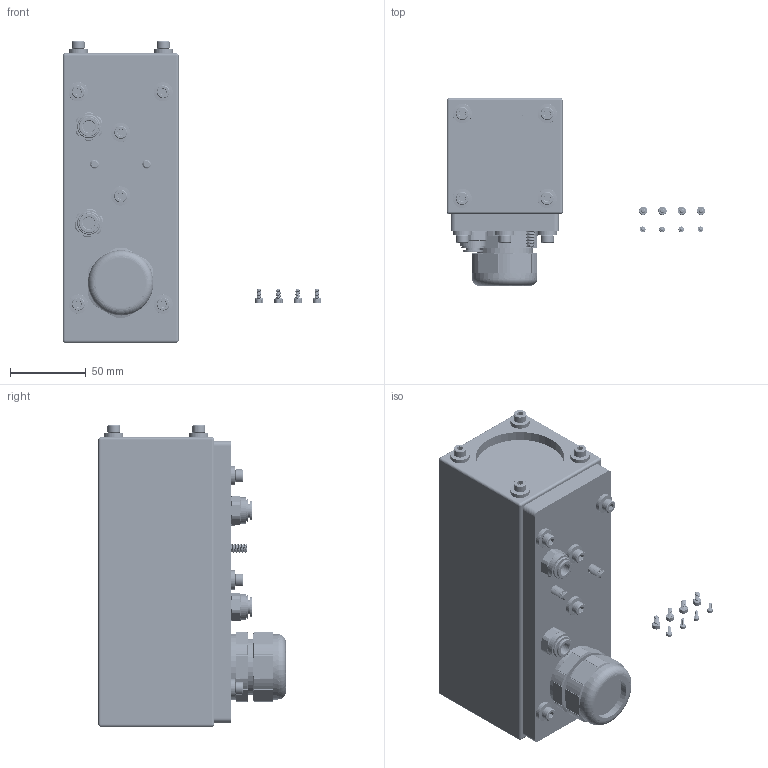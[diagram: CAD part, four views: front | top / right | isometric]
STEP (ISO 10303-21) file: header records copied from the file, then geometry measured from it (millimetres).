
FILE_DESCRIPTION (( 'STEP AP203' ), '1' );
FILE_NAME ('30D-GH.STEP', '2022-08-15T17:24:48', ( '' ), ( '' ), 'SwSTEP 2.0', 'SolidWorks 2021', '' );
FILE_SCHEMA (( 'CONFIG_CONTROL_DESIGN' ));
Length unit declared in the file: inch
Products named in the file (24): 200401; 30D-GH; 500103; 94709A214; 200343; PG29-B01; 400109; 91292A128; 93625A200; 9452K140_9452K14; 91292A111_91292A111; 200400; 91292A005_91292A005; PG29-I01; 94709A212; 200953; SP-M5-2; PG29-N03; 51055K14; 201381; PG29-S01; PG29-01-01-01-03; 400108; 91292A137
Assembly tree (61 placements, depth 3):
  30D-GH
    200343
    200401
      200400
      SP-M5-2  x4
    200953
    201381
    400108
    400109
    500103
    PG29-01-01-01-03
      PG29-B01
      PG29-I01
      PG29-S01
      PG29-N03
    91292A111_91292A111  x4
    91292A005_91292A005  x4
    93625A200  x6
    94709A212  x10
    91292A128  x10
    94709A214  x2
    91292A137  x2
    9452K140_9452K14  x4
    51055K14  x2
Bounding box: 170.05 x 123.31 x 198.35 mm (x, y, z)
Volume: 299580.2 mm3; surface area: 243109.5 mm2
Topology: 78 solids, 78 shells, 3790 faces, 10083 edges, 6487 vertices
Faces by surface type: cylinder 2255, plane 740, cone 538, sphere 104, torus 89, bspline 64
Entity records: 55963 total; most frequent: CARTESIAN_POINT 22944, ORIENTED_EDGE 6514, DIRECTION 5905, EDGE_CURVE 3257, AXIS2_PLACEMENT_3D 2259, VERTEX_POINT 2089, LINE 1387, VECTOR 1387
